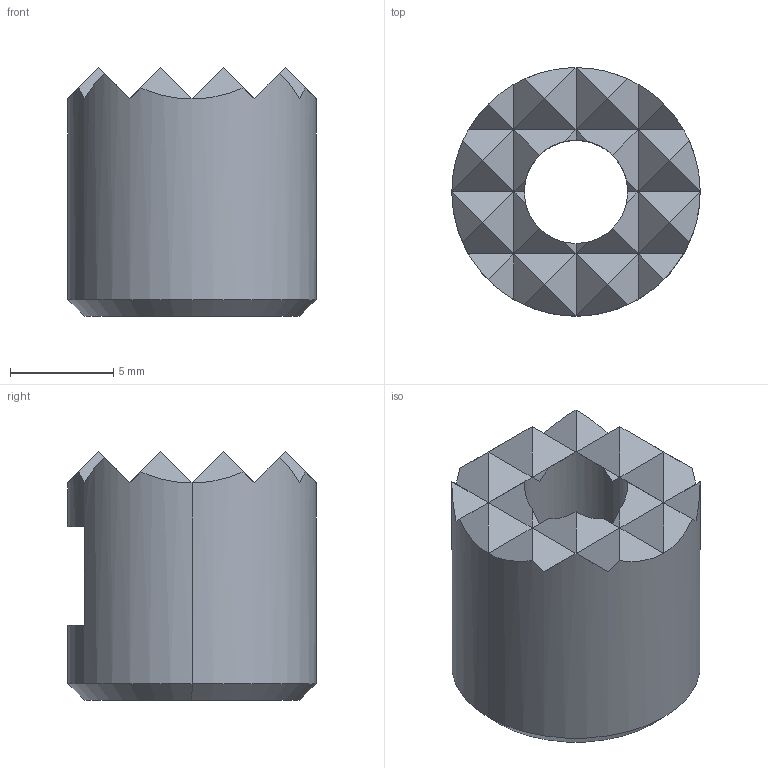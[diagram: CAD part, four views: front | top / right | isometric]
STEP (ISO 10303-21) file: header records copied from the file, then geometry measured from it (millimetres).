
FILE_DESCRIPTION (( 'STEP AP203' ), '1' );
FILE_NAME ('hs-122.STEP', '2021-10-26T01:16:28', ( '' ), ( '' ), 'SwSTEP 2.0', 'SolidWorks 2020', '' );
FILE_SCHEMA (( 'CONFIG_CONTROL_DESIGN' ));
Length unit declared in the file: millimetre
Products named in the file (1): hs-122
Bounding box: 12 x 12 x 12 mm (x, y, z)
Volume: 998.9 mm3; surface area: 792.8 mm2
Topology: 1 solids, 1 shells, 68 faces, 134 edges, 68 vertices
Faces by surface type: plane 60, cone 4, cylinder 4
Entity records: 1717 total; most frequent: CARTESIAN_POINT 391, ORIENTED_EDGE 268, DIRECTION 242, EDGE_CURVE 134, VECTOR 84, LINE 84, AXIS2_PLACEMENT_3D 79, EDGE_LOOP 70
